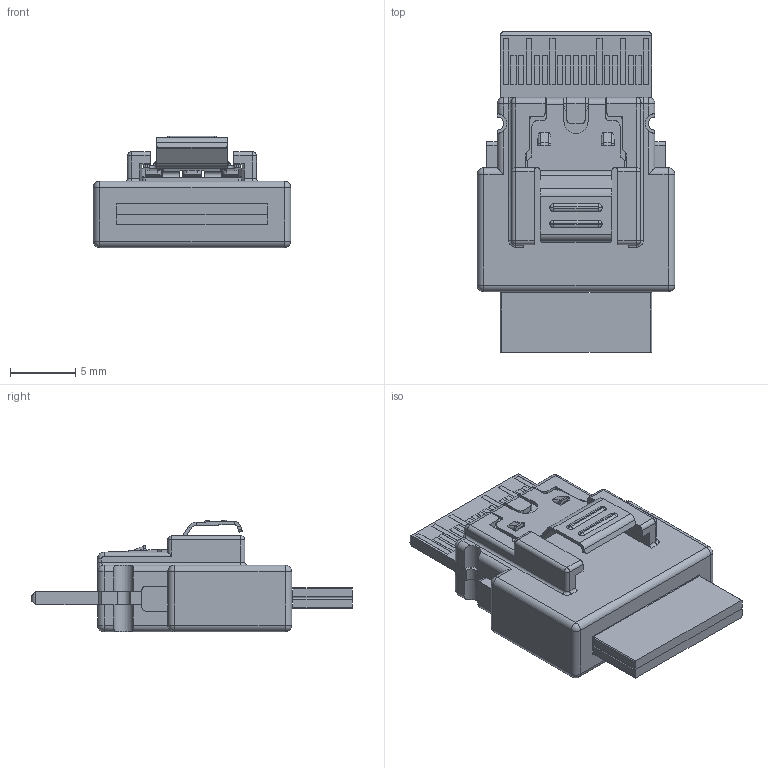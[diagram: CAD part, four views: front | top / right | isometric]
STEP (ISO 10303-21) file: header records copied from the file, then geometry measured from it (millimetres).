
FILE_DESCRIPTION((''),'2;1');
FILE_NAME('PLUG_ASM_ASM','2016-06-28T',('louischan'),(''),'PRO/ENGINEER BY PARAMETRIC TECHNOLOGY CORPORATION, 2013230','PRO/ENGINEER BY PARAMETRIC TECHNOLOGY CORPORATION, 2013230','');
FILE_SCHEMA(('CONFIG_CONTROL_DESIGN'));
Length unit declared in the file: millimetre
Products named in the file (6): PLUG_PCB_23; OVERMOLD_32; LATCH_0828_2; 31AWG_RIBBON_CABLE_4; PLUG_ASM_43_ASM; PLUG_ASM_ASM
Assembly tree (6 placements, depth 3):
  PLUG_ASM_ASM
    PLUG_ASM_43_ASM
      PLUG_PCB_23
      OVERMOLD_32
      LATCH_0828_2
      31AWG_RIBBON_CABLE_4  x2
Bounding box: 15.15 x 24.6 x 8.54 mm (x, y, z)
Volume: 1127 mm3; surface area: 2214.2 mm2
Topology: 5 solids, 5 shells, 1026 faces, 2673 edges, 1738 vertices
Faces by surface type: plane 745, cylinder 170, extrusion 73, sphere 16, bspline 12, torus 10
Entity records: 31736 total; most frequent: CARTESIAN_POINT 6768, ORIENTED_EDGE 5266, DIRECTION 4776, EDGE_CURVE 2633, VECTOR 2152, LINE 2079, VERTEX_POINT 1722, AXIS2_PLACEMENT_3D 1312
